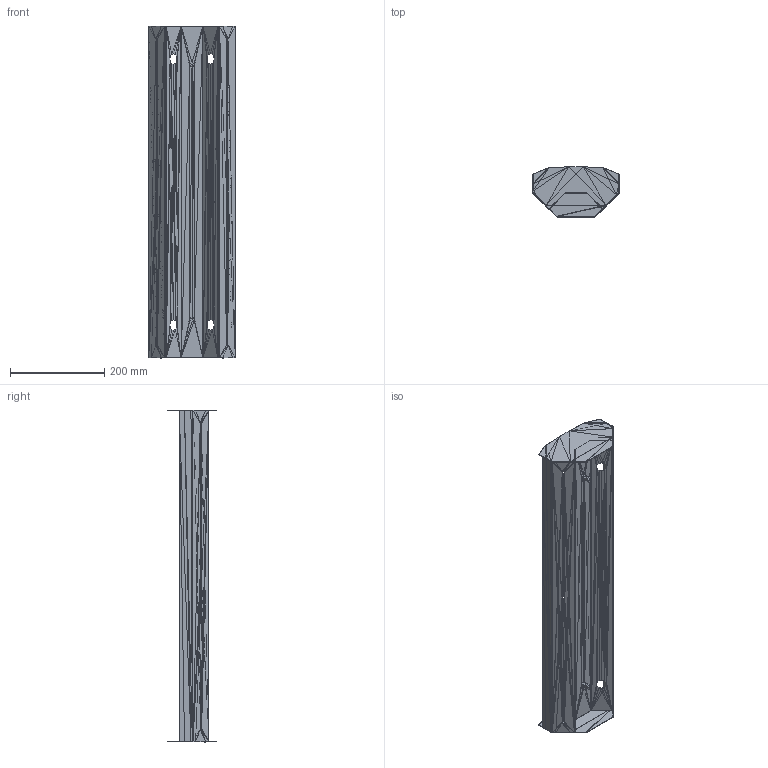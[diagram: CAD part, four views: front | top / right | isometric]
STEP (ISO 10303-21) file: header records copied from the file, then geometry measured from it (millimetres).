
FILE_DESCRIPTION((''),'2;1');
FILE_NAME('053417', '2026-07-09T12:48:38', (''), (''), 'ImageToStl.com STEP Converter','', '');
FILE_SCHEMA(('AUTOMOTIVE_DESIGN_CC2'));
Length unit declared in the file: metre
Products named in the file (1): product0
Bounding box: 184 x 105.8 x 705 mm (x, y, z)
Surface area: 481386.7 mm2 (no closed solid volume)
Topology: 0 solids, 1420 shells, 1420 faces, 4260 edges, 715 vertices
Faces by surface type: plane 1420
Entity records: 32698 total; most frequent: DIRECTION 7102, ORIENTED_EDGE 4260, EDGE_CURVE 4260, LINE 4260, VECTOR 4260, AXIS2_PLACEMENT_3D 1421, FACE_SURFACE 1420, PLANE 1420
